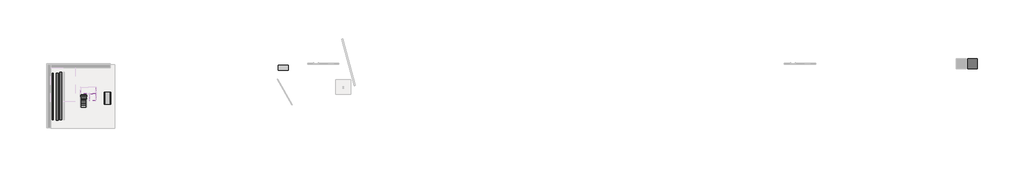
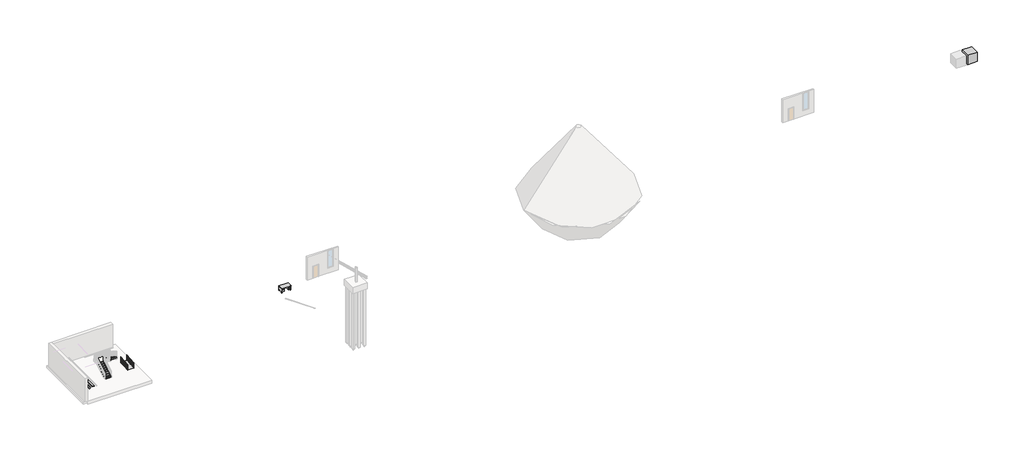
# One storey, part 4 of 6: 2 railings, 2 stair flights, 1 cable carrier segment, 1 duct segment, 1 furniture element, 1 pipe segment, 1 proxy, 1 ramp, 1 slab.
"""IFC4 building model written with IfcOpenShell, lengths in millimetres."""

from ifc_helpers import new_model, si_unit, point, frame, frame_2d, origin, place, context, project, spatial, polyline, circle_curve, ellipse_curve, trimmed, segment, composite_curve, outline, extrude, transform, mapped, element, save
from ifc_brep_helpers import plane_surface, cylinder_surface, advanced_brep
from components import specialty_equipment_c6e90f60, furniture_8f660baf, ramp_92e51838, slab_3419086f, stair_flight_b8b95e33, stair_flight_c75f74d2

model = new_model("IFC4")

# Units and contexts
model_context = context("Model", 3, world=origin())
ifc_project = project(units=[si_unit("LENGTHUNIT", "METRE", prefix="MILLI")], contexts=[model_context])

# Site, building, storey
site = spatial("IfcSite", under=ifc_project)
building = spatial("IfcBuilding", under=site)
storey = spatial("IfcBuildingStorey", under=building, Name="Уровень 1", Elevation=0.0)

# Proxy
placement = place(None, origin())
specialty_equipment_shape = specialty_equipment_c6e90f60(model_context)
element("IfcBuildingElementProxy", 1, Name="Кубик_Невырезаемая геометрия геометрия : Кубик_Невырезаемая геометрия геометрия", ObjectType="Кубик_Невырезаемая геометрия геометрия : Кубик_Невырезаемая геометрия геометрия", at=placement, inside=storey, context=model_context, shape_type="MappedRepresentation", body=[
    mapped(specialty_equipment_shape, transform((137901.036855, 13888.8122436, 0.0), x_axis=(1.0, 0.0, 0.0), y_axis=(0.0, 1.0, 0.0), z_axis=(0.0, 0.0, 1.0))),
])

# Cable carrier segment
element("IfcCableCarrierSegment", 2, ObjectType="Ступенчатый кабельный лоток", at=placement, inside=storey, context=model_context, shape_type="SweptSolid", body=[
    extrude(outline(polyline([(-11359.3085886, 12493.6426493), (-11059.3085886, 12493.6426493), (-11059.3085886, 4693.6426493), (-11359.3085886, 4693.6426493), (-11359.3085886, 12493.6426493)])), frame((0.0, 0.0, 1150.0), z_axis=(0.0, 0.0, 1.0), x_axis=(1.0, 0.0, 0.0)), (0.0, 0.0, 1.0), 100.0),
])

# Duct segment
element("IfcDuctSegment", 3, ObjectType="По умолчанию", at=placement, inside=storey, context=model_context, shape_type="SweptSolid", body=[
    extrude(outline(composite_curve([segment(trimmed(circle_curve(frame_2d((1200.0, -11810.5735086)), 152.5), [point((1352.5, -11810.5735086))], [point((1200.0, -11963.0735086))], False, "CARTESIAN"), True, "CONTINUOUS"), segment(trimmed(circle_curve(frame_2d((1200.0, -11810.5735086)), 152.5), [point((1200.0, -11963.0735086))], [point((1047.5, -11810.5735086))], False, "CARTESIAN"), True, "CONTINUOUS"), segment(polyline([(1047.5, -11810.5735086), (1047.5, -11808.0436686)]), True, "CONTINUOUS"), segment(trimmed(circle_curve(frame_2d((1200.0, -11808.0436686)), 152.5), [point((1047.5, -11808.0436686))], [point((1200.0, -11655.5436686))], False, "CARTESIAN"), True, "CONTINUOUS"), segment(trimmed(circle_curve(frame_2d((1200.0, -11808.0436686)), 152.5), [point((1200.0, -11655.5436686))], [point((1352.5, -11808.0436686))], False, "CARTESIAN"), True, "CONTINUOUS"), segment(polyline([(1352.5, -11808.0436686), (1352.5, -11810.5735086)]), True, "CONTINUOUS")], self_intersect=False)), frame((0.0, 4660.8556152, 0.0), z_axis=(0.0, 1.0, 0.0), x_axis=(0.0, 0.0, 1.0)), (0.0, 0.0, 1.0), 7700.0),
])

# Furniture
furniture_shape = furniture_8f660baf(model_context)
element("IfcFurniture", 4, ObjectType="M_Стол : 1525 x 762 мм", at=placement, inside=storey, context=model_context, shape_type="MappedRepresentation", body=[
    mapped(furniture_shape, transform((24391.1914114, 12820.1546779, 0.0), x_axis=(1.0, 0.0, 0.0), y_axis=(0.0, 1.0, 0.0), z_axis=(0.0, 0.0, 1.0))),
])

# Pipe segment
element("IfcPipeSegment", 5, ObjectType="По умолчанию", at=placement, inside=storey, context=model_context, shape_type="SweptSolid", body=[
    extrude(outline(composite_curve([segment(trimmed(circle_curve(frame_2d((1200.0, -12509.3085886)), 84.1375), [point((1200.0, -12593.4460886))], [point((1115.8625, -12509.3085886))], False, "CARTESIAN"), True, "CONTINUOUS"), segment(trimmed(circle_curve(frame_2d((1200.0, -12509.3085886)), 84.1375), [point((1115.8625, -12509.3085886))], [point((1200.0, -12425.1710886))], False, "CARTESIAN"), True, "CONTINUOUS"), segment(trimmed(circle_curve(frame_2d((1200.0, -12509.3085886)), 84.1375), [point((1200.0, -12425.1710886))], [point((1284.1375, -12509.3085886))], False, "CARTESIAN"), True, "CONTINUOUS"), segment(trimmed(circle_curve(frame_2d((1200.0, -12509.3085886)), 84.1375), [point((1284.1375, -12509.3085886))], [point((1200.0, -12593.4460886))], False, "CARTESIAN"), True, "CONTINUOUS")], self_intersect=False)), frame((0.0, 4760.8556152, 0.0), z_axis=(0.0, 1.0, 0.0), x_axis=(0.0, 0.0, 1.0)), (0.0, 0.0, 1.0), 7600.0),
])

# Railings
element("IfcRailing", 6, ObjectType="Труба 900 мм", at=placement, inside=storey, context=model_context, shape_type="AdvancedBrep", body=[
    advanced_brep(
    [(-3077.0702666, 7233.2944848, 879.9306757), (-3117.0702666, 7233.2944848, 879.9306757), (-3077.0702666, 9233.2944848, 1046.5973424), (-3117.0702666, 9233.2944848, 1046.5973424)],
    [
        (0, 1, ellipse_curve(frame((-3097.0702666, 7233.2944848, 879.9306757), z_axis=(0.0, -1.0, 0.0), x_axis=(0.0, 0.0, -0.9999999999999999)), 20.0693243, 20.0)),
        (1, 0, ellipse_curve(frame((-3097.0702666, 7233.2944848, 879.9306757), z_axis=(0.0, -1.0, 0.0), x_axis=(0.0, 0.0, -0.9999999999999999)), 20.0693243, 20.0)),
        (2, 3, ellipse_curve(frame((-3097.0702666, 9233.2944848, 1046.5973424), z_axis=(0.0, 1.0, 0.0), x_axis=(0.0, 0.0, -0.9999999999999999)), 20.0693243, 20.0)),
        (3, 2, ellipse_curve(frame((-3097.0702666, 9233.2944848, 1046.5973424), z_axis=(0.0, 1.0, 0.0), x_axis=(0.0, 0.0, -0.9999999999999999)), 20.0693243, 20.0)),
        (0, 2),
        (3, 1),
    ],
    [
        plane_surface(frame((-3097.0702666, 7233.2944848, 900.0), z_axis=(0.0, -1.0, 0.0), x_axis=(0.0, 0.0, 1.0))),
        plane_surface(frame((-3097.0702666, 9233.2944848, 1066.6666667), z_axis=(0.0, 1.0, 0.0), x_axis=(0.0, 0.0, 1.0))),
        cylinder_surface(frame((-3097.0702666, 7234.9553944, 880.0690848), z_axis=(0.0, -0.9965457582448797, -0.08304547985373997), x_axis=(-1.0, 0.0, 0.0)), 20.0),
    ],
    [
        (0, [[1, 2]]),
        (1, [[3, 4]]),
        (2, [[-1, 5, -4, 6]]),
        (2, [[-2, -6, -3, -5]]),
    ],
),
    advanced_brep(
    [(-3082.0702666, 7233.2944848, 759.9480068), (-3112.0702666, 7233.2944848, 759.9480068), (-3082.0702666, 9233.2944848, 926.6146734), (-3112.0702666, 9233.2944848, 926.6146734)],
    [
        (0, 1, ellipse_curve(frame((-3097.0702666, 7233.2944848, 759.9480068), z_axis=(0.0, -1.0, 0.0), x_axis=(0.0, 0.0, -0.9999999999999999)), 15.0519932, 15.0)),
        (1, 0, ellipse_curve(frame((-3097.0702666, 7233.2944848, 759.9480068), z_axis=(0.0, -1.0, 0.0), x_axis=(0.0, 0.0, -0.9999999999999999)), 15.0519932, 15.0)),
        (2, 3, ellipse_curve(frame((-3097.0702666, 9233.2944848, 926.6146734), z_axis=(0.0, 1.0, 0.0), x_axis=(0.0, 0.0, -0.9999999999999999)), 15.0519932, 15.0)),
        (3, 2, ellipse_curve(frame((-3097.0702666, 9233.2944848, 926.6146734), z_axis=(0.0, 1.0, 0.0), x_axis=(0.0, 0.0, -0.9999999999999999)), 15.0519932, 15.0)),
        (0, 2),
        (3, 1),
    ],
    [
        plane_surface(frame((-3097.0702666, 7233.2944848, 775.0), z_axis=(0.0, -1.0, 0.0), x_axis=(0.0, 0.0, 1.0))),
        plane_surface(frame((-3097.0702666, 9233.2944848, 941.6666667), z_axis=(0.0, 1.0, 0.0), x_axis=(0.0, 0.0, 1.0))),
        cylinder_surface(frame((-3097.0702666, 7234.540167, 760.0518136), z_axis=(0.0, -0.9965457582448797, -0.08304547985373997), x_axis=(-1.0, 0.0, 0.0)), 15.0),
    ],
    [
        (0, [[1, 2]]),
        (1, [[3, 4]]),
        (2, [[-1, 5, -4, 6]]),
        (2, [[-2, -6, -3, -5]]),
    ],
),
    advanced_brep(
    [(-3082.0702666, 7233.2944848, 634.9480068), (-3112.0702666, 7233.2944848, 634.9480068), (-3082.0702666, 9233.2944848, 801.6146734), (-3112.0702666, 9233.2944848, 801.6146734)],
    [
        (0, 1, ellipse_curve(frame((-3097.0702666, 7233.2944848, 634.9480068), z_axis=(0.0, -1.0, 0.0), x_axis=(0.0, 0.0, -0.9999999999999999)), 15.0519932, 15.0)),
        (1, 0, ellipse_curve(frame((-3097.0702666, 7233.2944848, 634.9480068), z_axis=(0.0, -1.0, 0.0), x_axis=(0.0, 0.0, -0.9999999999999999)), 15.0519932, 15.0)),
        (2, 3, ellipse_curve(frame((-3097.0702666, 9233.2944848, 801.6146734), z_axis=(0.0, 1.0, 0.0), x_axis=(0.0, 0.0, -0.9999999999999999)), 15.0519932, 15.0)),
        (3, 2, ellipse_curve(frame((-3097.0702666, 9233.2944848, 801.6146734), z_axis=(0.0, 1.0, 0.0), x_axis=(0.0, 0.0, -0.9999999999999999)), 15.0519932, 15.0)),
        (0, 2),
        (3, 1),
    ],
    [
        plane_surface(frame((-3097.0702666, 7233.2944848, 650.0), z_axis=(0.0, -1.0, 0.0), x_axis=(0.0, 0.0, 1.0))),
        plane_surface(frame((-3097.0702666, 9233.2944848, 816.6666667), z_axis=(0.0, 1.0, 0.0), x_axis=(0.0, 0.0, 1.0))),
        cylinder_surface(frame((-3097.0702666, 7234.540167, 635.0518136), z_axis=(0.0, -0.9965457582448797, -0.08304547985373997), x_axis=(-1.0, 0.0, 0.0)), 15.0),
    ],
    [
        (0, [[1, 2]]),
        (1, [[3, 4]]),
        (2, [[-1, 5, -4, 6]]),
        (2, [[-2, -6, -3, -5]]),
    ],
),
    advanced_brep(
    [(-3082.0702666, 7233.2944848, 509.9480068), (-3112.0702666, 7233.2944848, 509.9480068), (-3082.0702666, 9233.2944848, 676.6146734), (-3112.0702666, 9233.2944848, 676.6146734)],
    [
        (0, 1, ellipse_curve(frame((-3097.0702666, 7233.2944848, 509.9480068), z_axis=(0.0, -1.0, 0.0), x_axis=(0.0, 0.0, -0.9999999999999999)), 15.0519932, 15.0)),
        (1, 0, ellipse_curve(frame((-3097.0702666, 7233.2944848, 509.9480068), z_axis=(0.0, -1.0, 0.0), x_axis=(0.0, 0.0, -0.9999999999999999)), 15.0519932, 15.0)),
        (2, 3, ellipse_curve(frame((-3097.0702666, 9233.2944848, 676.6146734), z_axis=(0.0, 1.0, 0.0), x_axis=(0.0, 0.0, -0.9999999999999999)), 15.0519932, 15.0)),
        (3, 2, ellipse_curve(frame((-3097.0702666, 9233.2944848, 676.6146734), z_axis=(0.0, 1.0, 0.0), x_axis=(0.0, 0.0, -0.9999999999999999)), 15.0519932, 15.0)),
        (0, 2),
        (3, 1),
    ],
    [
        plane_surface(frame((-3097.0702666, 7233.2944848, 525.0), z_axis=(0.0, -1.0, 0.0), x_axis=(0.0, 0.0, 1.0))),
        plane_surface(frame((-3097.0702666, 9233.2944848, 691.6666667), z_axis=(0.0, 1.0, 0.0), x_axis=(0.0, 0.0, 1.0))),
        cylinder_surface(frame((-3097.0702666, 7234.540167, 510.0518136), z_axis=(0.0, -0.9965457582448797, -0.08304547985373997), x_axis=(-1.0, 0.0, 0.0)), 15.0),
    ],
    [
        (0, [[1, 2]]),
        (1, [[3, 4]]),
        (2, [[-1, 5, -4, 6]]),
        (2, [[-2, -6, -3, -5]]),
    ],
),
    advanced_brep(
    [(-3082.0702666, 7233.2944848, 384.9480068), (-3112.0702666, 7233.2944848, 384.9480068), (-3082.0702666, 9233.2944848, 551.6146734), (-3112.0702666, 9233.2944848, 551.6146734)],
    [
        (0, 1, ellipse_curve(frame((-3097.0702666, 7233.2944848, 384.9480068), z_axis=(0.0, -1.0, 0.0), x_axis=(0.0, 0.0, -0.9999999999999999)), 15.0519932, 15.0)),
        (1, 0, ellipse_curve(frame((-3097.0702666, 7233.2944848, 384.9480068), z_axis=(0.0, -1.0, 0.0), x_axis=(0.0, 0.0, -0.9999999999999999)), 15.0519932, 15.0)),
        (2, 3, ellipse_curve(frame((-3097.0702666, 9233.2944848, 551.6146734), z_axis=(0.0, 1.0, 0.0), x_axis=(0.0, 0.0, -0.9999999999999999)), 15.0519932, 15.0)),
        (3, 2, ellipse_curve(frame((-3097.0702666, 9233.2944848, 551.6146734), z_axis=(0.0, 1.0, 0.0), x_axis=(0.0, 0.0, -0.9999999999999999)), 15.0519932, 15.0)),
        (0, 2),
        (3, 1),
    ],
    [
        plane_surface(frame((-3097.0702666, 7233.2944848, 400.0), z_axis=(0.0, -1.0, 0.0), x_axis=(0.0, 0.0, 1.0))),
        plane_surface(frame((-3097.0702666, 9233.2944848, 566.6666667), z_axis=(0.0, 1.0, 0.0), x_axis=(0.0, 0.0, 1.0))),
        cylinder_surface(frame((-3097.0702666, 7234.540167, 385.0518136), z_axis=(0.0, -0.9965457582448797, -0.08304547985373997), x_axis=(-1.0, 0.0, 0.0)), 15.0),
    ],
    [
        (0, [[1, 2]]),
        (1, [[3, 4]]),
        (2, [[-1, 5, -4, 6]]),
        (2, [[-2, -6, -3, -5]]),
    ],
),
    advanced_brep(
    [(-3082.0702666, 7233.2944848, 259.9480068), (-3112.0702666, 7233.2944848, 259.9480068), (-3082.0702666, 9233.2944848, 426.6146734), (-3112.0702666, 9233.2944848, 426.6146734)],
    [
        (0, 1, ellipse_curve(frame((-3097.0702666, 7233.2944848, 259.9480068), z_axis=(0.0, -1.0, 0.0), x_axis=(0.0, 0.0, -0.9999999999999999)), 15.0519932, 15.0)),
        (1, 0, ellipse_curve(frame((-3097.0702666, 7233.2944848, 259.9480068), z_axis=(0.0, -1.0, 0.0), x_axis=(0.0, 0.0, -0.9999999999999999)), 15.0519932, 15.0)),
        (2, 3, ellipse_curve(frame((-3097.0702666, 9233.2944848, 426.6146734), z_axis=(0.0, 1.0, 0.0), x_axis=(0.0, 0.0, -0.9999999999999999)), 15.0519932, 15.0)),
        (3, 2, ellipse_curve(frame((-3097.0702666, 9233.2944848, 426.6146734), z_axis=(0.0, 1.0, 0.0), x_axis=(0.0, 0.0, -0.9999999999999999)), 15.0519932, 15.0)),
        (0, 2),
        (3, 1),
    ],
    [
        plane_surface(frame((-3097.0702666, 7233.2944848, 275.0), z_axis=(0.0, -1.0, 0.0), x_axis=(0.0, 0.0, 1.0))),
        plane_surface(frame((-3097.0702666, 9233.2944848, 441.6666667), z_axis=(0.0, 1.0, 0.0), x_axis=(0.0, 0.0, 1.0))),
        cylinder_surface(frame((-3097.0702666, 7234.540167, 260.0518136), z_axis=(0.0, -0.9965457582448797, -0.08304547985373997), x_axis=(-1.0, 0.0, 0.0)), 15.0),
    ],
    [
        (0, [[1, 2]]),
        (1, [[3, 4]]),
        (2, [[-1, 5, -4, 6]]),
        (2, [[-2, -6, -3, -5]]),
    ],
),
    advanced_brep(
    [(-3082.0702666, 7233.2944848, 134.9480068), (-3112.0702666, 7233.2944848, 134.9480068), (-3082.0702666, 9233.2944848, 301.6146734), (-3112.0702666, 9233.2944848, 301.6146734)],
    [
        (0, 1, ellipse_curve(frame((-3097.0702666, 7233.2944848, 134.9480068), z_axis=(0.0, -1.0, 0.0), x_axis=(0.0, 0.0, -0.9999999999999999)), 15.0519932, 15.0)),
        (1, 0, ellipse_curve(frame((-3097.0702666, 7233.2944848, 134.9480068), z_axis=(0.0, -1.0, 0.0), x_axis=(0.0, 0.0, -0.9999999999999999)), 15.0519932, 15.0)),
        (2, 3, ellipse_curve(frame((-3097.0702666, 9233.2944848, 301.6146734), z_axis=(0.0, 1.0, 0.0), x_axis=(0.0, 0.0, -0.9999999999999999)), 15.0519932, 15.0)),
        (3, 2, ellipse_curve(frame((-3097.0702666, 9233.2944848, 301.6146734), z_axis=(0.0, 1.0, 0.0), x_axis=(0.0, 0.0, -0.9999999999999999)), 15.0519932, 15.0)),
        (0, 2),
        (3, 1),
    ],
    [
        plane_surface(frame((-3097.0702666, 7233.2944848, 150.0), z_axis=(0.0, -1.0, 0.0), x_axis=(0.0, 0.0, 1.0))),
        plane_surface(frame((-3097.0702666, 9233.2944848, 316.6666667), z_axis=(0.0, 1.0, 0.0), x_axis=(0.0, 0.0, 1.0))),
        cylinder_surface(frame((-3097.0702666, 7234.540167, 135.0518136), z_axis=(0.0, -0.9965457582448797, -0.08304547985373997), x_axis=(-1.0, 0.0, 0.0)), 15.0),
    ],
    [
        (0, [[1, 2]]),
        (1, [[3, 4]]),
        (2, [[-1, 5, -4, 6]]),
        (2, [[-2, -6, -3, -5]]),
    ],
),
    advanced_brep(
    [(-3109.5702666, 8233.2944848, 943.1946847), (-3084.5702666, 8233.2944848, 943.1946847), (-3084.5702666, 8233.2944848, 83.3333333), (-3109.5702666, 8233.2944848, 83.3333333)],
    [
        (0, 1, ellipse_curve(frame((-3097.0702666, 8233.2944848, 943.1946847), z_axis=(0.0, 0.08304547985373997, -0.9965457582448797), x_axis=(0.0, 0.9965457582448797, 0.0830454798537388)), 12.5433277, 12.5)),
        (1, 2),
        (2, 3, ellipse_curve(frame((-3097.0702666, 8233.2944848, 83.3333333), z_axis=(0.0, -0.08304547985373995, 0.9965457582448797), x_axis=(0.0, 0.9965457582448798, 0.08304547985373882)), 12.5433277, 12.5)),
        (3, 0),
        (3, 2, ellipse_curve(frame((-3097.0702666, 8233.2944848, 83.3333333), z_axis=(0.0, -0.08304547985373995, 0.9965457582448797), x_axis=(0.0, 0.9965457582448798, 0.08304547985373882)), 12.5433277, 12.5)),
        (1, 0, ellipse_curve(frame((-3097.0702666, 8233.2944848, 943.1946847), z_axis=(0.0, 0.08304547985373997, -0.9965457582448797), x_axis=(0.0, 0.9965457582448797, 0.0830454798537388)), 12.5433277, 12.5)),
    ],
    [
        cylinder_surface(frame((-3097.0702666, 8233.2944848, -16.6666667), z_axis=(0.0, 0.0, 1.0), x_axis=(1.0, 0.0, 0.0)), 12.5),
        plane_surface(frame((-3072.0702666, 8258.2944848, 945.2780181), z_axis=(0.0, -0.08304547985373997, 0.9965457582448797), x_axis=(-1.0, 0.0, 0.0))),
        plane_surface(frame((-3072.0702666, 8208.2944848, 81.25), z_axis=(0.0, 0.08304547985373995, -0.9965457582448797), x_axis=(-1.0, 0.0, 0.0))),
    ],
    [
        (0, [[1, 2, 3, 4]]),
        (0, [[5, -2, 6, -4]]),
        (1, [[-6, -1]]),
        (2, [[-5, -3]]),
    ],
),
    advanced_brep(
    [(-3109.5702666, 9220.7944848, 1025.4863514), (-3084.5702666, 9220.7944848, 1025.4863514), (-3084.5702666, 9220.7944848, 165.625), (-3109.5702666, 9220.7944848, 165.625)],
    [
        (0, 1, ellipse_curve(frame((-3097.0702666, 9220.7944848, 1025.4863514), z_axis=(0.0, 0.08304547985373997, -0.9965457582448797), x_axis=(0.0, 0.9965457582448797, 0.0830454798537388)), 12.5433277, 12.5)),
        (1, 2),
        (2, 3, ellipse_curve(frame((-3097.0702666, 9220.7944848, 165.625), z_axis=(0.0, -0.08304547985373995, 0.9965457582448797), x_axis=(0.0, 0.9965457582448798, 0.08304547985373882)), 12.5433277, 12.5)),
        (3, 0),
        (3, 2, ellipse_curve(frame((-3097.0702666, 9220.7944848, 165.625), z_axis=(0.0, -0.08304547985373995, 0.9965457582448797), x_axis=(0.0, 0.9965457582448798, 0.08304547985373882)), 12.5433277, 12.5)),
        (1, 0, ellipse_curve(frame((-3097.0702666, 9220.7944848, 1025.4863514), z_axis=(0.0, 0.08304547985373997, -0.9965457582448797), x_axis=(0.0, 0.9965457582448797, 0.0830454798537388)), 12.5433277, 12.5)),
    ],
    [
        cylinder_surface(frame((-3097.0702666, 9220.7944848, 65.625), z_axis=(0.0, 0.0, 1.0), x_axis=(1.0, 0.0, 0.0)), 12.5),
        plane_surface(frame((-3072.0702666, 9245.7944848, 1027.5696847), z_axis=(0.0, -0.08304547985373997, 0.9965457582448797), x_axis=(-1.0, 0.0, 0.0))),
        plane_surface(frame((-3072.0702666, 9195.7944848, 163.5416667), z_axis=(0.0, 0.08304547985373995, -0.9965457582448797), x_axis=(-1.0, 0.0, 0.0))),
    ],
    [
        (0, [[1, 2, 3, 4]]),
        (0, [[5, -2, 6, -4]]),
        (1, [[-6, -1]]),
        (2, [[-5, -3]]),
    ],
),
    advanced_brep(
    [(-3109.5702666, 7245.7944848, 860.9030181), (-3084.5702666, 7245.7944848, 860.9030181), (-3084.5702666, 7245.7944848, 1.0416667), (-3109.5702666, 7245.7944848, 1.0416667)],
    [
        (0, 1, ellipse_curve(frame((-3097.0702666, 7245.7944848, 860.9030181), z_axis=(0.0, 0.08304547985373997, -0.9965457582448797), x_axis=(0.0, 0.9965457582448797, 0.0830454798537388)), 12.5433277, 12.5)),
        (1, 2),
        (2, 3, ellipse_curve(frame((-3097.0702666, 7245.7944848, 1.0416667), z_axis=(0.0, -0.08304547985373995, 0.9965457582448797), x_axis=(0.0, 0.9965457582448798, 0.08304547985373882)), 12.5433277, 12.5)),
        (3, 0),
        (3, 2, ellipse_curve(frame((-3097.0702666, 7245.7944848, 1.0416667), z_axis=(0.0, -0.08304547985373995, 0.9965457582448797), x_axis=(0.0, 0.9965457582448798, 0.08304547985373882)), 12.5433277, 12.5)),
        (1, 0, ellipse_curve(frame((-3097.0702666, 7245.7944848, 860.9030181), z_axis=(0.0, 0.08304547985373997, -0.9965457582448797), x_axis=(0.0, 0.9965457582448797, 0.0830454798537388)), 12.5433277, 12.5)),
    ],
    [
        cylinder_surface(frame((-3097.0702666, 7245.7944848, -98.9583333), z_axis=(0.0, 0.0, 1.0), x_axis=(1.0, 0.0, 0.0)), 12.5),
        plane_surface(frame((-3072.0702666, 7270.7944848, 862.9863514), z_axis=(0.0, -0.08304547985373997, 0.9965457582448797), x_axis=(-1.0, 0.0, 0.0))),
        plane_surface(frame((-3072.0702666, 7220.7944848, -1.0416667), z_axis=(0.0, 0.08304547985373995, -0.9965457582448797), x_axis=(-1.0, 0.0, 0.0))),
    ],
    [
        (0, [[1, 2, 3, 4]]),
        (0, [[5, -2, 6, -4]]),
        (1, [[-6, -1]]),
        (2, [[-5, -3]]),
    ],
),
])
element("IfcRailing", 7, ObjectType="Труба 900 мм", at=placement, inside=storey, context=model_context, shape_type="AdvancedBrep", body=[
    advanced_brep(
    [(-4077.0702666, 7233.2944848, 879.9306757), (-4117.0702666, 7233.2944848, 879.9306757), (-4077.0702666, 9233.2944848, 1046.5973424), (-4117.0702666, 9233.2944848, 1046.5973424)],
    [
        (0, 1, ellipse_curve(frame((-4097.0702666, 7233.2944848, 879.9306757), z_axis=(0.0, -1.0, 0.0), x_axis=(0.0, 0.0, -0.9999999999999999)), 20.0693243, 20.0)),
        (1, 0, ellipse_curve(frame((-4097.0702666, 7233.2944848, 879.9306757), z_axis=(0.0, -1.0, 0.0), x_axis=(0.0, 0.0, -0.9999999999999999)), 20.0693243, 20.0)),
        (2, 3, ellipse_curve(frame((-4097.0702666, 9233.2944848, 1046.5973424), z_axis=(0.0, 1.0, 0.0), x_axis=(0.0, 0.0, -0.9999999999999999)), 20.0693243, 20.0)),
        (3, 2, ellipse_curve(frame((-4097.0702666, 9233.2944848, 1046.5973424), z_axis=(0.0, 1.0, 0.0), x_axis=(0.0, 0.0, -0.9999999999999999)), 20.0693243, 20.0)),
        (0, 2),
        (3, 1),
    ],
    [
        plane_surface(frame((-4097.0702666, 7233.2944848, 900.0), z_axis=(0.0, -1.0, 0.0), x_axis=(0.0, 0.0, 1.0))),
        plane_surface(frame((-4097.0702666, 9233.2944848, 1066.6666667), z_axis=(0.0, 1.0, 0.0), x_axis=(0.0, 0.0, 1.0))),
        cylinder_surface(frame((-4097.0702666, 7234.9553944, 880.0690848), z_axis=(0.0, -0.9965457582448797, -0.08304547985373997), x_axis=(-1.0, 0.0, 0.0)), 20.0),
    ],
    [
        (0, [[1, 2]]),
        (1, [[3, 4]]),
        (2, [[-1, 5, -4, 6]]),
        (2, [[-2, -6, -3, -5]]),
    ],
),
    advanced_brep(
    [(-4112.0702666, 7233.2944848, 759.9480068), (-4082.0702666, 7233.2944848, 759.9480068), (-4112.0702666, 9233.2944848, 926.6146734), (-4082.0702666, 9233.2944848, 926.6146734)],
    [
        (0, 1, ellipse_curve(frame((-4097.0702666, 7233.2944848, 759.9480068), z_axis=(0.0, -1.0, 0.0), x_axis=(0.0, 0.0, -0.9999999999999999)), 15.0519932, 15.0)),
        (1, 0, ellipse_curve(frame((-4097.0702666, 7233.2944848, 759.9480068), z_axis=(0.0, -1.0, 0.0), x_axis=(0.0, 0.0, -0.9999999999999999)), 15.0519932, 15.0)),
        (2, 3, ellipse_curve(frame((-4097.0702666, 9233.2944848, 926.6146734), z_axis=(0.0, 1.0, 0.0), x_axis=(0.0, 0.0, -0.9999999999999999)), 15.0519932, 15.0)),
        (3, 2, ellipse_curve(frame((-4097.0702666, 9233.2944848, 926.6146734), z_axis=(0.0, 1.0, 0.0), x_axis=(0.0, 0.0, -0.9999999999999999)), 15.0519932, 15.0)),
        (0, 2),
        (3, 1),
    ],
    [
        plane_surface(frame((-4097.0702666, 7233.2944848, 775.0), z_axis=(0.0, -1.0, 0.0), x_axis=(0.0, 0.0, 1.0))),
        plane_surface(frame((-4097.0702666, 9233.2944848, 941.6666667), z_axis=(0.0, 1.0, 0.0), x_axis=(0.0, 0.0, 1.0))),
        cylinder_surface(frame((-4097.0702666, 7234.540167, 760.0518136), z_axis=(0.0, -0.9965457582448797, -0.08304547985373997), x_axis=(1.0, 0.0, 0.0)), 15.0),
    ],
    [
        (0, [[1, 2]]),
        (1, [[3, 4]]),
        (2, [[-1, 5, -4, 6]]),
        (2, [[-2, -6, -3, -5]]),
    ],
),
    advanced_brep(
    [(-4112.0702666, 7233.2944848, 634.9480068), (-4082.0702666, 7233.2944848, 634.9480068), (-4112.0702666, 9233.2944848, 801.6146734), (-4082.0702666, 9233.2944848, 801.6146734)],
    [
        (0, 1, ellipse_curve(frame((-4097.0702666, 7233.2944848, 634.9480068), z_axis=(0.0, -1.0, 0.0), x_axis=(0.0, 0.0, -0.9999999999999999)), 15.0519932, 15.0)),
        (1, 0, ellipse_curve(frame((-4097.0702666, 7233.2944848, 634.9480068), z_axis=(0.0, -1.0, 0.0), x_axis=(0.0, 0.0, -0.9999999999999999)), 15.0519932, 15.0)),
        (2, 3, ellipse_curve(frame((-4097.0702666, 9233.2944848, 801.6146734), z_axis=(0.0, 1.0, 0.0), x_axis=(0.0, 0.0, -0.9999999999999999)), 15.0519932, 15.0)),
        (3, 2, ellipse_curve(frame((-4097.0702666, 9233.2944848, 801.6146734), z_axis=(0.0, 1.0, 0.0), x_axis=(0.0, 0.0, -0.9999999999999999)), 15.0519932, 15.0)),
        (0, 2),
        (3, 1),
    ],
    [
        plane_surface(frame((-4097.0702666, 7233.2944848, 650.0), z_axis=(0.0, -1.0, 0.0), x_axis=(0.0, 0.0, 1.0))),
        plane_surface(frame((-4097.0702666, 9233.2944848, 816.6666667), z_axis=(0.0, 1.0, 0.0), x_axis=(0.0, 0.0, 1.0))),
        cylinder_surface(frame((-4097.0702666, 7234.540167, 635.0518136), z_axis=(0.0, -0.9965457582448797, -0.08304547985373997), x_axis=(1.0, 0.0, 0.0)), 15.0),
    ],
    [
        (0, [[1, 2]]),
        (1, [[3, 4]]),
        (2, [[-1, 5, -4, 6]]),
        (2, [[-2, -6, -3, -5]]),
    ],
),
    advanced_brep(
    [(-4112.0702666, 7233.2944848, 509.9480068), (-4082.0702666, 7233.2944848, 509.9480068), (-4112.0702666, 9233.2944848, 676.6146734), (-4082.0702666, 9233.2944848, 676.6146734)],
    [
        (0, 1, ellipse_curve(frame((-4097.0702666, 7233.2944848, 509.9480068), z_axis=(0.0, -1.0, 0.0), x_axis=(0.0, 0.0, -0.9999999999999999)), 15.0519932, 15.0)),
        (1, 0, ellipse_curve(frame((-4097.0702666, 7233.2944848, 509.9480068), z_axis=(0.0, -1.0, 0.0), x_axis=(0.0, 0.0, -0.9999999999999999)), 15.0519932, 15.0)),
        (2, 3, ellipse_curve(frame((-4097.0702666, 9233.2944848, 676.6146734), z_axis=(0.0, 1.0, 0.0), x_axis=(0.0, 0.0, -0.9999999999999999)), 15.0519932, 15.0)),
        (3, 2, ellipse_curve(frame((-4097.0702666, 9233.2944848, 676.6146734), z_axis=(0.0, 1.0, 0.0), x_axis=(0.0, 0.0, -0.9999999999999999)), 15.0519932, 15.0)),
        (0, 2),
        (3, 1),
    ],
    [
        plane_surface(frame((-4097.0702666, 7233.2944848, 525.0), z_axis=(0.0, -1.0, 0.0), x_axis=(0.0, 0.0, 1.0))),
        plane_surface(frame((-4097.0702666, 9233.2944848, 691.6666667), z_axis=(0.0, 1.0, 0.0), x_axis=(0.0, 0.0, 1.0))),
        cylinder_surface(frame((-4097.0702666, 7234.540167, 510.0518136), z_axis=(0.0, -0.9965457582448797, -0.08304547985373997), x_axis=(1.0, 0.0, 0.0)), 15.0),
    ],
    [
        (0, [[1, 2]]),
        (1, [[3, 4]]),
        (2, [[-1, 5, -4, 6]]),
        (2, [[-2, -6, -3, -5]]),
    ],
),
    advanced_brep(
    [(-4112.0702666, 7233.2944848, 384.9480068), (-4082.0702666, 7233.2944848, 384.9480068), (-4112.0702666, 9233.2944848, 551.6146734), (-4082.0702666, 9233.2944848, 551.6146734)],
    [
        (0, 1, ellipse_curve(frame((-4097.0702666, 7233.2944848, 384.9480068), z_axis=(0.0, -1.0, 0.0), x_axis=(0.0, 0.0, -0.9999999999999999)), 15.0519932, 15.0)),
        (1, 0, ellipse_curve(frame((-4097.0702666, 7233.2944848, 384.9480068), z_axis=(0.0, -1.0, 0.0), x_axis=(0.0, 0.0, -0.9999999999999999)), 15.0519932, 15.0)),
        (2, 3, ellipse_curve(frame((-4097.0702666, 9233.2944848, 551.6146734), z_axis=(0.0, 1.0, 0.0), x_axis=(0.0, 0.0, -0.9999999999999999)), 15.0519932, 15.0)),
        (3, 2, ellipse_curve(frame((-4097.0702666, 9233.2944848, 551.6146734), z_axis=(0.0, 1.0, 0.0), x_axis=(0.0, 0.0, -0.9999999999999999)), 15.0519932, 15.0)),
        (0, 2),
        (3, 1),
    ],
    [
        plane_surface(frame((-4097.0702666, 7233.2944848, 400.0), z_axis=(0.0, -1.0, 0.0), x_axis=(0.0, 0.0, 1.0))),
        plane_surface(frame((-4097.0702666, 9233.2944848, 566.6666667), z_axis=(0.0, 1.0, 0.0), x_axis=(0.0, 0.0, 1.0))),
        cylinder_surface(frame((-4097.0702666, 7234.540167, 385.0518136), z_axis=(0.0, -0.9965457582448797, -0.08304547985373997), x_axis=(1.0, 0.0, 0.0)), 15.0),
    ],
    [
        (0, [[1, 2]]),
        (1, [[3, 4]]),
        (2, [[-1, 5, -4, 6]]),
        (2, [[-2, -6, -3, -5]]),
    ],
),
    advanced_brep(
    [(-4112.0702666, 7233.2944848, 259.9480068), (-4082.0702666, 7233.2944848, 259.9480068), (-4112.0702666, 9233.2944848, 426.6146734), (-4082.0702666, 9233.2944848, 426.6146734)],
    [
        (0, 1, ellipse_curve(frame((-4097.0702666, 7233.2944848, 259.9480068), z_axis=(0.0, -1.0, 0.0), x_axis=(0.0, 0.0, -0.9999999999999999)), 15.0519932, 15.0)),
        (1, 0, ellipse_curve(frame((-4097.0702666, 7233.2944848, 259.9480068), z_axis=(0.0, -1.0, 0.0), x_axis=(0.0, 0.0, -0.9999999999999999)), 15.0519932, 15.0)),
        (2, 3, ellipse_curve(frame((-4097.0702666, 9233.2944848, 426.6146734), z_axis=(0.0, 1.0, 0.0), x_axis=(0.0, 0.0, -0.9999999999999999)), 15.0519932, 15.0)),
        (3, 2, ellipse_curve(frame((-4097.0702666, 9233.2944848, 426.6146734), z_axis=(0.0, 1.0, 0.0), x_axis=(0.0, 0.0, -0.9999999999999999)), 15.0519932, 15.0)),
        (0, 2),
        (3, 1),
    ],
    [
        plane_surface(frame((-4097.0702666, 7233.2944848, 275.0), z_axis=(0.0, -1.0, 0.0), x_axis=(0.0, 0.0, 1.0))),
        plane_surface(frame((-4097.0702666, 9233.2944848, 441.6666667), z_axis=(0.0, 1.0, 0.0), x_axis=(0.0, 0.0, 1.0))),
        cylinder_surface(frame((-4097.0702666, 7234.540167, 260.0518136), z_axis=(0.0, -0.9965457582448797, -0.08304547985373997), x_axis=(1.0, 0.0, 0.0)), 15.0),
    ],
    [
        (0, [[1, 2]]),
        (1, [[3, 4]]),
        (2, [[-1, 5, -4, 6]]),
        (2, [[-2, -6, -3, -5]]),
    ],
),
    advanced_brep(
    [(-4112.0702666, 7233.2944848, 134.9480068), (-4082.0702666, 7233.2944848, 134.9480068), (-4112.0702666, 9233.2944848, 301.6146734), (-4082.0702666, 9233.2944848, 301.6146734)],
    [
        (0, 1, ellipse_curve(frame((-4097.0702666, 7233.2944848, 134.9480068), z_axis=(0.0, -1.0, 0.0), x_axis=(0.0, 0.0, -0.9999999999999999)), 15.0519932, 15.0)),
        (1, 0, ellipse_curve(frame((-4097.0702666, 7233.2944848, 134.9480068), z_axis=(0.0, -1.0, 0.0), x_axis=(0.0, 0.0, -0.9999999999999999)), 15.0519932, 15.0)),
        (2, 3, ellipse_curve(frame((-4097.0702666, 9233.2944848, 301.6146734), z_axis=(0.0, 1.0, 0.0), x_axis=(0.0, 0.0, -0.9999999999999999)), 15.0519932, 15.0)),
        (3, 2, ellipse_curve(frame((-4097.0702666, 9233.2944848, 301.6146734), z_axis=(0.0, 1.0, 0.0), x_axis=(0.0, 0.0, -0.9999999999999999)), 15.0519932, 15.0)),
        (0, 2),
        (3, 1),
    ],
    [
        plane_surface(frame((-4097.0702666, 7233.2944848, 150.0), z_axis=(0.0, -1.0, 0.0), x_axis=(0.0, 0.0, 1.0))),
        plane_surface(frame((-4097.0702666, 9233.2944848, 316.6666667), z_axis=(0.0, 1.0, 0.0), x_axis=(0.0, 0.0, 1.0))),
        cylinder_surface(frame((-4097.0702666, 7234.540167, 135.0518136), z_axis=(0.0, -0.9965457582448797, -0.08304547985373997), x_axis=(1.0, 0.0, 0.0)), 15.0),
    ],
    [
        (0, [[1, 2]]),
        (1, [[3, 4]]),
        (2, [[-1, 5, -4, 6]]),
        (2, [[-2, -6, -3, -5]]),
    ],
),
    advanced_brep(
    [(-4084.5702666, 8233.2944848, 943.1946847), (-4084.5702666, 8233.2944848, 83.3333333), (-4109.5702666, 8233.2944848, 83.3333333), (-4109.5702666, 8233.2944848, 943.1946847)],
    [
        (0, 1),
        (1, 2, ellipse_curve(frame((-4097.0702666, 8233.2944848, 83.3333333), z_axis=(0.0, -0.08304547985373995, 0.9965457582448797), x_axis=(0.0, 0.9965457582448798, 0.08304547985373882)), 12.5433277, 12.5)),
        (2, 3),
        (3, 0, ellipse_curve(frame((-4097.0702666, 8233.2944848, 943.1946847), z_axis=(0.0, 0.08304547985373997, -0.9965457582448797), x_axis=(0.0, 0.9965457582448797, 0.0830454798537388)), 12.5433277, 12.5)),
        (0, 3, ellipse_curve(frame((-4097.0702666, 8233.2944848, 943.1946847), z_axis=(0.0, 0.08304547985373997, -0.9965457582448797), x_axis=(0.0, 0.9965457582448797, 0.0830454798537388)), 12.5433277, 12.5)),
        (2, 1, ellipse_curve(frame((-4097.0702666, 8233.2944848, 83.3333333), z_axis=(0.0, -0.08304547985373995, 0.9965457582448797), x_axis=(0.0, 0.9965457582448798, 0.08304547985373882)), 12.5433277, 12.5)),
    ],
    [
        cylinder_surface(frame((-4097.0702666, 8233.2944848, -16.6666667), z_axis=(0.0, 0.0, 1.0), x_axis=(-1.0, 0.0, 0.0)), 12.5),
        plane_surface(frame((-4122.0702666, 8258.2944848, 945.2780181), z_axis=(0.0, -0.08304547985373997, 0.9965457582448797), x_axis=(1.0, 0.0, 0.0))),
        plane_surface(frame((-4122.0702666, 8208.2944848, 81.25), z_axis=(0.0, 0.08304547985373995, -0.9965457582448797), x_axis=(1.0, 0.0, 0.0))),
    ],
    [
        (0, [[1, 2, 3, 4]]),
        (0, [[-1, 5, -3, 6]]),
        (1, [[-4, -5]]),
        (2, [[-2, -6]]),
    ],
),
    advanced_brep(
    [(-4084.5702666, 9220.7944848, 1025.4863514), (-4084.5702666, 9220.7944848, 165.625), (-4109.5702666, 9220.7944848, 165.625), (-4109.5702666, 9220.7944848, 1025.4863514)],
    [
        (0, 1),
        (1, 2, ellipse_curve(frame((-4097.0702666, 9220.7944848, 165.625), z_axis=(0.0, -0.08304547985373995, 0.9965457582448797), x_axis=(0.0, 0.9965457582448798, 0.08304547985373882)), 12.5433277, 12.5)),
        (2, 3),
        (3, 0, ellipse_curve(frame((-4097.0702666, 9220.7944848, 1025.4863514), z_axis=(0.0, 0.08304547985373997, -0.9965457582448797), x_axis=(0.0, 0.9965457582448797, 0.0830454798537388)), 12.5433277, 12.5)),
        (0, 3, ellipse_curve(frame((-4097.0702666, 9220.7944848, 1025.4863514), z_axis=(0.0, 0.08304547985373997, -0.9965457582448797), x_axis=(0.0, 0.9965457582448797, 0.0830454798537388)), 12.5433277, 12.5)),
        (2, 1, ellipse_curve(frame((-4097.0702666, 9220.7944848, 165.625), z_axis=(0.0, -0.08304547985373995, 0.9965457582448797), x_axis=(0.0, 0.9965457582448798, 0.08304547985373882)), 12.5433277, 12.5)),
    ],
    [
        cylinder_surface(frame((-4097.0702666, 9220.7944848, 65.625), z_axis=(0.0, 0.0, 1.0), x_axis=(-1.0, 0.0, 0.0)), 12.5),
        plane_surface(frame((-4122.0702666, 9245.7944848, 1027.5696847), z_axis=(0.0, -0.08304547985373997, 0.9965457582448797), x_axis=(1.0, 0.0, 0.0))),
        plane_surface(frame((-4122.0702666, 9195.7944848, 163.5416667), z_axis=(0.0, 0.08304547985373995, -0.9965457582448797), x_axis=(1.0, 0.0, 0.0))),
    ],
    [
        (0, [[1, 2, 3, 4]]),
        (0, [[-1, 5, -3, 6]]),
        (1, [[-4, -5]]),
        (2, [[-2, -6]]),
    ],
),
    advanced_brep(
    [(-4084.5702666, 7245.7944848, 860.9030181), (-4084.5702666, 7245.7944848, 1.0416667), (-4109.5702666, 7245.7944848, 1.0416667), (-4109.5702666, 7245.7944848, 860.9030181)],
    [
        (0, 1),
        (1, 2, ellipse_curve(frame((-4097.0702666, 7245.7944848, 1.0416667), z_axis=(0.0, -0.08304547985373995, 0.9965457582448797), x_axis=(0.0, 0.9965457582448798, 0.08304547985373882)), 12.5433277, 12.5)),
        (2, 3),
        (3, 0, ellipse_curve(frame((-4097.0702666, 7245.7944848, 860.9030181), z_axis=(0.0, 0.08304547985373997, -0.9965457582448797), x_axis=(0.0, 0.9965457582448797, 0.0830454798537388)), 12.5433277, 12.5)),
        (0, 3, ellipse_curve(frame((-4097.0702666, 7245.7944848, 860.9030181), z_axis=(0.0, 0.08304547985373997, -0.9965457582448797), x_axis=(0.0, 0.9965457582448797, 0.0830454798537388)), 12.5433277, 12.5)),
        (2, 1, ellipse_curve(frame((-4097.0702666, 7245.7944848, 1.0416667), z_axis=(0.0, -0.08304547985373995, 0.9965457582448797), x_axis=(0.0, 0.9965457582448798, 0.08304547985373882)), 12.5433277, 12.5)),
    ],
    [
        cylinder_surface(frame((-4097.0702666, 7245.7944848, -98.9583333), z_axis=(0.0, 0.0, 1.0), x_axis=(-1.0, 0.0, 0.0)), 12.5),
        plane_surface(frame((-4122.0702666, 7270.7944848, 862.9863514), z_axis=(0.0, -0.08304547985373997, 0.9965457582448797), x_axis=(1.0, 0.0, 0.0))),
        plane_surface(frame((-4122.0702666, 7220.7944848, -1.0416667), z_axis=(0.0, 0.08304547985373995, -0.9965457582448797), x_axis=(1.0, 0.0, 0.0))),
    ],
    [
        (0, [[1, 2, 3, 4]]),
        (0, [[-1, 5, -3, 6]]),
        (1, [[-4, -5]]),
        (2, [[-2, -6]]),
    ],
),
])

# Ramp
ramp_shape = ramp_92e51838(model_context)
element("IfcRamp", 8, ObjectType="Пандус 1", at=placement, inside=storey, context=model_context, shape_type="MappedRepresentation", body=[
    mapped(ramp_shape, transform((0.0, 0.0, 0.0), x_axis=(1.0, 0.0, 0.0), y_axis=(0.0, 1.0, 0.0), z_axis=(0.0, 0.0, 1.0))),
])

# Slab
slab_shape = slab_3419086f(model_context)
element("IfcSlab", 9, ObjectType="Немонолитная площадка", at=placement, inside=storey, context=model_context, shape_type="MappedRepresentation", body=[
    mapped(slab_shape, transform((0.0, 0.0, 0.0), x_axis=(1.0, 0.0, 0.0), y_axis=(0.0, 1.0, 0.0), z_axis=(0.0, 0.0, 1.0))),
])

# Stair flights
stair_flight_shape = stair_flight_b8b95e33(model_context)
element("IfcStairFlight", 10, ObjectType="Проступь 50 мм, свес 25 мм, подступенок 13 мм", at=placement, inside=storey, context=model_context, shape_type="MappedRepresentation", body=[
    mapped(stair_flight_shape, transform((0.0, 0.0, 0.0), x_axis=(1.0, 0.0, 0.0), y_axis=(0.0, 1.0, 0.0), z_axis=(0.0, 0.0, 1.0))),
])
stair_flight_2_shape = stair_flight_c75f74d2(model_context)
element("IfcStairFlight", 11, ObjectType="Проступь 50 мм, свес 25 мм, подступенок 13 мм", at=placement, inside=storey, context=model_context, shape_type="MappedRepresentation", body=[
    mapped(stair_flight_2_shape, transform((0.0, 0.0, 0.0), x_axis=(1.0, 0.0, 0.0), y_axis=(0.0, 1.0, 0.0), z_axis=(0.0, 0.0, 1.0))),
])

save(model, "model.ifc")
